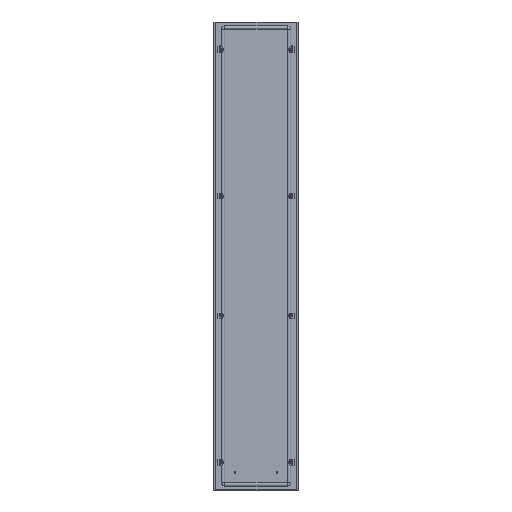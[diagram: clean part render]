
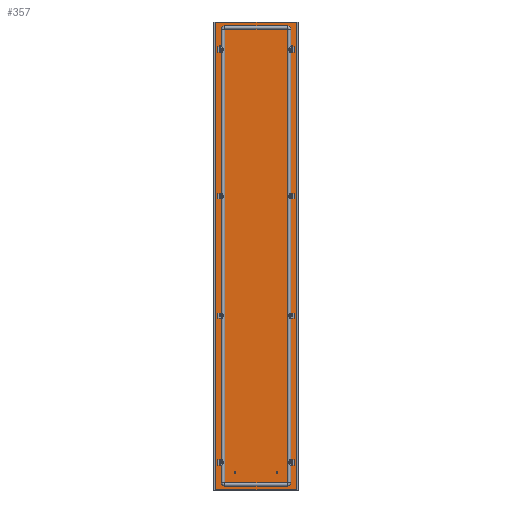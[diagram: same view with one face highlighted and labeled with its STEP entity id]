
A CAD part, top view. The second image highlights one B-rep face of the part: STEP entity #357.
In plain terms, the highlighted planar face has unit normal (0, 0, 1).
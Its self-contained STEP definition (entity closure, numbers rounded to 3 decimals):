
#357 = ADVANCED_FACE('',(#358,#456,#467,#478,#498,#518,#529,#540,#560),
  #580,.F.);
#358 = FACE_BOUND('',#359,.T.);
#359 = EDGE_LOOP('',(#360,#370,#378,#386,#394,#402,#410,#418,#426,#434,
    #442,#450));
#360 = ORIENTED_EDGE('',*,*,#361,.F.);
#361 = EDGE_CURVE('',#362,#364,#366,.T.);
#362 = VERTEX_POINT('',#363);
#363 = CARTESIAN_POINT('',(-195.5,1077.5,
    0.));
#364 = VERTEX_POINT('',#365);
#365 = CARTESIAN_POINT('',(-195.3,1077.5,0.));
#366 = LINE('',#367,#368);
#367 = CARTESIAN_POINT('',(0.,1077.5,
    0.));
#368 = VECTOR('',#369,1.);
#369 = DIRECTION('',(1.,-0.,0.));
#370 = ORIENTED_EDGE('',*,*,#371,.T.);
#371 = EDGE_CURVE('',#362,#372,#374,.T.);
#372 = VERTEX_POINT('',#373);
#373 = CARTESIAN_POINT('',(-195.5,-1077.5,
    0.));
#374 = LINE('',#375,#376);
#375 = CARTESIAN_POINT('',(-195.5,0.,0.));
#376 = VECTOR('',#377,1.);
#377 = DIRECTION('',(0.,-1.,-0.));
#378 = ORIENTED_EDGE('',*,*,#379,.T.);
#379 = EDGE_CURVE('',#372,#380,#382,.T.);
#380 = VERTEX_POINT('',#381);
#381 = CARTESIAN_POINT('',(-195.3,-1077.5,0.));
#382 = LINE('',#383,#384);
#383 = CARTESIAN_POINT('',(0.,-1077.5,
    0.));
#384 = VECTOR('',#385,1.);
#385 = DIRECTION('',(1.,-0.,-0.));
#386 = ORIENTED_EDGE('',*,*,#387,.F.);
#387 = EDGE_CURVE('',#388,#380,#390,.T.);
#388 = VERTEX_POINT('',#389);
#389 = CARTESIAN_POINT('',(-195.3,-1076.,0.));
#390 = LINE('',#391,#392);
#391 = CARTESIAN_POINT('',(-195.3,0.,
    0.));
#392 = VECTOR('',#393,1.);
#393 = DIRECTION('',(0.,-1.,0.));
#394 = ORIENTED_EDGE('',*,*,#395,.T.);
#395 = EDGE_CURVE('',#388,#396,#398,.T.);
#396 = VERTEX_POINT('',#397);
#397 = CARTESIAN_POINT('',(195.3,-1076.,0.));
#398 = LINE('',#399,#400);
#399 = CARTESIAN_POINT('',(0.,-1076.,
    0.));
#400 = VECTOR('',#401,1.);
#401 = DIRECTION('',(1.,-0.,-0.));
#402 = ORIENTED_EDGE('',*,*,#403,.T.);
#403 = EDGE_CURVE('',#396,#404,#406,.T.);
#404 = VERTEX_POINT('',#405);
#405 = CARTESIAN_POINT('',(195.3,-1077.5,0.));
#406 = LINE('',#407,#408);
#407 = CARTESIAN_POINT('',(195.3,-1076.,0.));
#408 = VECTOR('',#409,1.);
#409 = DIRECTION('',(0.,-1.,-0.));
#410 = ORIENTED_EDGE('',*,*,#411,.F.);
#411 = EDGE_CURVE('',#412,#404,#414,.T.);
#412 = VERTEX_POINT('',#413);
#413 = CARTESIAN_POINT('',(195.5,-1077.5,
    0.));
#414 = LINE('',#415,#416);
#415 = CARTESIAN_POINT('',(0.,-1077.5,
    0.));
#416 = VECTOR('',#417,1.);
#417 = DIRECTION('',(-1.,0.,0.));
#418 = ORIENTED_EDGE('',*,*,#419,.T.);
#419 = EDGE_CURVE('',#412,#420,#422,.T.);
#420 = VERTEX_POINT('',#421);
#421 = CARTESIAN_POINT('',(195.5,1077.5,
    0.));
#422 = LINE('',#423,#424);
#423 = CARTESIAN_POINT('',(195.5,0.,0.));
#424 = VECTOR('',#425,1.);
#425 = DIRECTION('',(-0.,1.,-0.));
#426 = ORIENTED_EDGE('',*,*,#427,.T.);
#427 = EDGE_CURVE('',#420,#428,#430,.T.);
#428 = VERTEX_POINT('',#429);
#429 = CARTESIAN_POINT('',(195.3,1077.5,0.));
#430 = LINE('',#431,#432);
#431 = CARTESIAN_POINT('',(0.,1077.5,0.));
#432 = VECTOR('',#433,1.);
#433 = DIRECTION('',(-1.,-0.,-0.));
#434 = ORIENTED_EDGE('',*,*,#435,.F.);
#435 = EDGE_CURVE('',#436,#428,#438,.T.);
#436 = VERTEX_POINT('',#437);
#437 = CARTESIAN_POINT('',(195.3,1076.,0.));
#438 = LINE('',#439,#440);
#439 = CARTESIAN_POINT('',(195.3,0.,0.
    ));
#440 = VECTOR('',#441,1.);
#441 = DIRECTION('',(0.,1.,0.));
#442 = ORIENTED_EDGE('',*,*,#443,.T.);
#443 = EDGE_CURVE('',#436,#444,#446,.T.);
#444 = VERTEX_POINT('',#445);
#445 = CARTESIAN_POINT('',(-195.3,1076.,0.));
#446 = LINE('',#447,#448);
#447 = CARTESIAN_POINT('',(0.,1076.,0.));
#448 = VECTOR('',#449,1.);
#449 = DIRECTION('',(-1.,-0.,-0.));
#450 = ORIENTED_EDGE('',*,*,#451,.T.);
#451 = EDGE_CURVE('',#444,#364,#452,.T.);
#452 = LINE('',#453,#454);
#453 = CARTESIAN_POINT('',(-195.3,1076.,0.));
#454 = VECTOR('',#455,1.);
#455 = DIRECTION('',(0.,1.,-0.));
#456 = FACE_BOUND('',#457,.T.);
#457 = EDGE_LOOP('',(#458));
#458 = ORIENTED_EDGE('',*,*,#459,.T.);
#459 = EDGE_CURVE('',#460,#460,#462,.T.);
#460 = VERTEX_POINT('',#461);
#461 = CARTESIAN_POINT('',(-164.5,-270.25,
    0.));
#462 = CIRCLE('',#463,4.75);
#463 = AXIS2_PLACEMENT_3D('',#464,#465,#466);
#464 = CARTESIAN_POINT('',(-164.5,-275.,0.));
#465 = DIRECTION('',(0.,0.,-1.));
#466 = DIRECTION('',(0.,1.,0.));
#467 = FACE_BOUND('',#468,.T.);
#468 = EDGE_LOOP('',(#469));
#469 = ORIENTED_EDGE('',*,*,#470,.T.);
#470 = EDGE_CURVE('',#471,#471,#473,.T.);
#471 = VERTEX_POINT('',#472);
#472 = CARTESIAN_POINT('',(164.5,-279.75,
    0.));
#473 = CIRCLE('',#474,4.75);
#474 = AXIS2_PLACEMENT_3D('',#475,#476,#477);
#475 = CARTESIAN_POINT('',(164.5,-275.,0.));
#476 = DIRECTION('',(-0.,0.,-1.));
#477 = DIRECTION('',(0.,-1.,0.));
#478 = FACE_BOUND('',#479,.T.);
#479 = EDGE_LOOP('',(#480,#491));
#480 = ORIENTED_EDGE('',*,*,#481,.F.);
#481 = EDGE_CURVE('',#482,#484,#486,.T.);
#482 = VERTEX_POINT('',#483);
#483 = CARTESIAN_POINT('',(-164.5,954.75,
    0.));
#484 = VERTEX_POINT('',#485);
#485 = CARTESIAN_POINT('',(-164.5,945.25,
    0.));
#486 = CIRCLE('',#487,4.75);
#487 = AXIS2_PLACEMENT_3D('',#488,#489,#490);
#488 = CARTESIAN_POINT('',(-164.5,950.,0.));
#489 = DIRECTION('',(0.,0.,1.));
#490 = DIRECTION('',(0.,1.,0.));
#491 = ORIENTED_EDGE('',*,*,#492,.F.);
#492 = EDGE_CURVE('',#484,#482,#493,.T.);
#493 = CIRCLE('',#494,4.75);
#494 = AXIS2_PLACEMENT_3D('',#495,#496,#497);
#495 = CARTESIAN_POINT('',(-164.5,950.,0.));
#496 = DIRECTION('',(0.,0.,1.));
#497 = DIRECTION('',(0.,1.,0.));
#498 = FACE_BOUND('',#499,.T.);
#499 = EDGE_LOOP('',(#500,#511));
#500 = ORIENTED_EDGE('',*,*,#501,.F.);
#501 = EDGE_CURVE('',#502,#504,#506,.T.);
#502 = VERTEX_POINT('',#503);
#503 = CARTESIAN_POINT('',(164.5,945.25,
    0.));
#504 = VERTEX_POINT('',#505);
#505 = CARTESIAN_POINT('',(164.5,954.75,
    0.));
#506 = CIRCLE('',#507,4.75);
#507 = AXIS2_PLACEMENT_3D('',#508,#509,#510);
#508 = CARTESIAN_POINT('',(164.5,950.,0.));
#509 = DIRECTION('',(0.,0.,1.));
#510 = DIRECTION('',(0.,-1.,0.));
#511 = ORIENTED_EDGE('',*,*,#512,.F.);
#512 = EDGE_CURVE('',#504,#502,#513,.T.);
#513 = CIRCLE('',#514,4.75);
#514 = AXIS2_PLACEMENT_3D('',#515,#516,#517);
#515 = CARTESIAN_POINT('',(164.5,950.,0.));
#516 = DIRECTION('',(0.,0.,1.));
#517 = DIRECTION('',(0.,-1.,0.));
#518 = FACE_BOUND('',#519,.T.);
#519 = EDGE_LOOP('',(#520));
#520 = ORIENTED_EDGE('',*,*,#521,.T.);
#521 = EDGE_CURVE('',#522,#522,#524,.T.);
#522 = VERTEX_POINT('',#523);
#523 = CARTESIAN_POINT('',(-164.5,-945.25,
    0.));
#524 = CIRCLE('',#525,4.75);
#525 = AXIS2_PLACEMENT_3D('',#526,#527,#528);
#526 = CARTESIAN_POINT('',(-164.5,-950.,0.));
#527 = DIRECTION('',(0.,0.,-1.));
#528 = DIRECTION('',(0.,1.,0.));
#529 = FACE_BOUND('',#530,.T.);
#530 = EDGE_LOOP('',(#531));
#531 = ORIENTED_EDGE('',*,*,#532,.T.);
#532 = EDGE_CURVE('',#533,#533,#535,.T.);
#533 = VERTEX_POINT('',#534);
#534 = CARTESIAN_POINT('',(164.5,-954.75,
    0.));
#535 = CIRCLE('',#536,4.75);
#536 = AXIS2_PLACEMENT_3D('',#537,#538,#539);
#537 = CARTESIAN_POINT('',(164.5,-950.,0.));
#538 = DIRECTION('',(-0.,0.,-1.));
#539 = DIRECTION('',(0.,-1.,0.));
#540 = FACE_BOUND('',#541,.T.);
#541 = EDGE_LOOP('',(#542,#553));
#542 = ORIENTED_EDGE('',*,*,#543,.F.);
#543 = EDGE_CURVE('',#544,#546,#548,.T.);
#544 = VERTEX_POINT('',#545);
#545 = CARTESIAN_POINT('',(164.5,270.25,
    0.));
#546 = VERTEX_POINT('',#547);
#547 = CARTESIAN_POINT('',(164.5,279.75,
    0.));
#548 = CIRCLE('',#549,4.75);
#549 = AXIS2_PLACEMENT_3D('',#550,#551,#552);
#550 = CARTESIAN_POINT('',(164.5,275.,0.));
#551 = DIRECTION('',(0.,0.,1.));
#552 = DIRECTION('',(0.,-1.,0.));
#553 = ORIENTED_EDGE('',*,*,#554,.F.);
#554 = EDGE_CURVE('',#546,#544,#555,.T.);
#555 = CIRCLE('',#556,4.75);
#556 = AXIS2_PLACEMENT_3D('',#557,#558,#559);
#557 = CARTESIAN_POINT('',(164.5,275.,0.));
#558 = DIRECTION('',(0.,0.,1.));
#559 = DIRECTION('',(0.,-1.,0.));
#560 = FACE_BOUND('',#561,.T.);
#561 = EDGE_LOOP('',(#562,#573));
#562 = ORIENTED_EDGE('',*,*,#563,.F.);
#563 = EDGE_CURVE('',#564,#566,#568,.T.);
#564 = VERTEX_POINT('',#565);
#565 = CARTESIAN_POINT('',(-164.5,279.75,
    0.));
#566 = VERTEX_POINT('',#567);
#567 = CARTESIAN_POINT('',(-164.5,270.25,
    0.));
#568 = CIRCLE('',#569,4.75);
#569 = AXIS2_PLACEMENT_3D('',#570,#571,#572);
#570 = CARTESIAN_POINT('',(-164.5,275.,0.));
#571 = DIRECTION('',(0.,0.,1.));
#572 = DIRECTION('',(0.,1.,0.));
#573 = ORIENTED_EDGE('',*,*,#574,.F.);
#574 = EDGE_CURVE('',#566,#564,#575,.T.);
#575 = CIRCLE('',#576,4.75);
#576 = AXIS2_PLACEMENT_3D('',#577,#578,#579);
#577 = CARTESIAN_POINT('',(-164.5,275.,0.));
#578 = DIRECTION('',(0.,0.,1.));
#579 = DIRECTION('',(0.,1.,0.));
#580 = PLANE('',#581);
#581 = AXIS2_PLACEMENT_3D('',#582,#583,#584);
#582 = CARTESIAN_POINT('',(0.,0.,0.));
#583 = DIRECTION('',(0.,0.,-1.));
#584 = DIRECTION('',(-1.,0.,0.));
